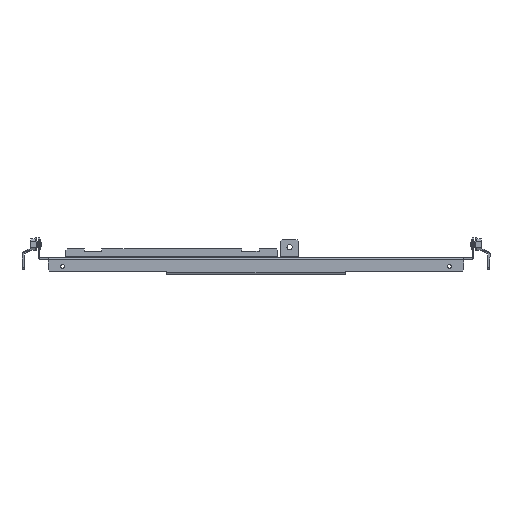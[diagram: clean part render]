
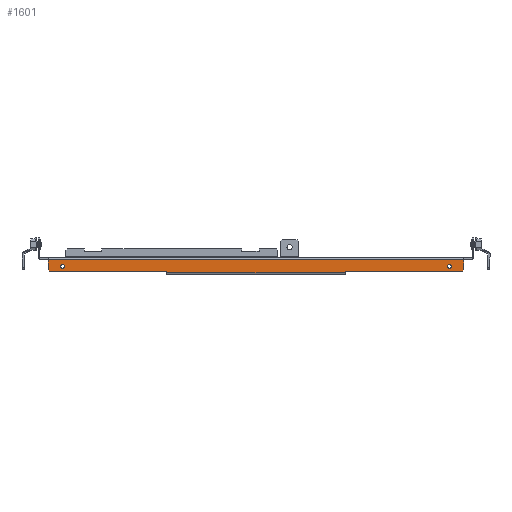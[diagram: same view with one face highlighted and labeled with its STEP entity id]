
A CAD part, front view. The second image highlights one B-rep face of the part: STEP entity #1601.
In plain terms, the highlighted planar face has unit normal (0, -1, 0).
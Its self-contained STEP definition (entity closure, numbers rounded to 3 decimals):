
#386=CARTESIAN_POINT(' ',(-221.5,-211.7,-7.8));
#387=VERTEX_POINT(' ',#386);
#401=CARTESIAN_POINT(' ',(-221.5,-211.7,-10.));
#406=DIRECTION(' ',(0.,-1.,0.));
#411=DIRECTION(' ',(0.,0.,1.));
#416=AXIS2_PLACEMENT_3D(' ',#401,#406,#411);
#421=CIRCLE('',#416,2.2);
#426=CARTESIAN_POINT(' ',(-221.5,-211.7,-12.2));
#427=VERTEX_POINT(' ',#426);
#431=EDGE_CURVE(' ',#387,#427,#421,.T.);
#1056=CARTESIAN_POINT(' ',(-221.5,-211.7,-10.));
#1061=DIRECTION(' ',(-0.,-1.,0.));
#1066=DIRECTION(' ',(0.,0.,-1.));
#1071=AXIS2_PLACEMENT_3D(' ',#1056,#1061,#1066);
#1076=CIRCLE('',#1071,2.2);
#1081=EDGE_CURVE(' ',#427,#387,#1076,.T.);
#1106=DIRECTION(' ',(0.,-1.,0.));
#1111=CARTESIAN_POINT(' ',(-238.,-211.7,-17.4));
#1116=DIRECTION(' ',(1.,0.,0.));
#1121=AXIS2_PLACEMENT_3D(' ',#1111,#1106,#1116);
#1126=PLANE('NONE',#1121);
#1131=CARTESIAN_POINT(' ',(102.,-211.7,-16.));
#1136=DIRECTION(' ',(1.,0.,0.));
#1141=VECTOR(' ',#1136,1.);
#1146=LINE('',#1131,#1141);
#1151=CARTESIAN_POINT(' ',(102.,-211.7,-16.));
#1152=VERTEX_POINT(' ',#1151);
#1156=CARTESIAN_POINT(' ',(236.,-211.7,-16.));
#1157=VERTEX_POINT(' ',#1156);
#1161=EDGE_CURVE(' ',#1152,#1157,#1146,.T.);
#1166=ORIENTED_EDGE(' ',*,*,#1161,.T.);
#1171=CARTESIAN_POINT(' ',(236.,-211.7,-16.));
#1176=DIRECTION(' ',(0.707,0.,0.707));
#1181=VECTOR(' ',#1176,1.);
#1186=LINE('',#1171,#1181);
#1191=CARTESIAN_POINT(' ',(238.,-211.7,-14.));
#1192=VERTEX_POINT(' ',#1191);
#1196=EDGE_CURVE(' ',#1157,#1192,#1186,.T.);
#1201=ORIENTED_EDGE(' ',*,*,#1196,.T.);
#1206=CARTESIAN_POINT(' ',(238.,-211.7,-14.));
#1211=DIRECTION(' ',(0.,0.,1.));
#1216=VECTOR(' ',#1211,1.);
#1221=LINE('',#1206,#1216);
#1226=CARTESIAN_POINT(' ',(238.,-211.7,-2.6));
#1227=VERTEX_POINT(' ',#1226);
#1231=EDGE_CURVE(' ',#1192,#1227,#1221,.T.);
#1236=ORIENTED_EDGE(' ',*,*,#1231,.T.);
#1241=CARTESIAN_POINT(' ',(-238.,-211.7,-2.6));
#1246=DIRECTION(' ',(1.,0.,0.));
#1251=VECTOR(' ',#1246,1.);
#1256=LINE('',#1241,#1251);
#1261=CARTESIAN_POINT(' ',(-238.,-211.7,-2.6));
#1262=VERTEX_POINT(' ',#1261);
#1266=EDGE_CURVE(' ',#1262,#1227,#1256,.T.);
#1271=ORIENTED_EDGE(' ',*,*,#1266,.F.);
#1276=CARTESIAN_POINT(' ',(-238.,-211.7,-2.6));
#1281=DIRECTION(' ',(0.,0.,-1.));
#1286=VECTOR(' ',#1281,1.);
#1291=LINE('',#1276,#1286);
#1296=CARTESIAN_POINT(' ',(-238.,-211.7,-14.));
#1297=VERTEX_POINT(' ',#1296);
#1301=EDGE_CURVE(' ',#1262,#1297,#1291,.T.);
#1306=ORIENTED_EDGE(' ',*,*,#1301,.T.);
#1311=CARTESIAN_POINT(' ',(-238.,-211.7,-14.));
#1316=DIRECTION(' ',(0.707,0.,-0.707));
#1321=VECTOR(' ',#1316,1.);
#1326=LINE('',#1311,#1321);
#1331=CARTESIAN_POINT(' ',(-236.,-211.7,-16.));
#1332=VERTEX_POINT(' ',#1331);
#1336=EDGE_CURVE(' ',#1297,#1332,#1326,.T.);
#1341=ORIENTED_EDGE(' ',*,*,#1336,.T.);
#1346=CARTESIAN_POINT(' ',(-236.,-211.7,-16.));
#1351=DIRECTION(' ',(1.,0.,0.));
#1356=VECTOR(' ',#1351,1.);
#1361=LINE('',#1346,#1356);
#1366=CARTESIAN_POINT(' ',(-102.,-211.7,-16.));
#1367=VERTEX_POINT(' ',#1366);
#1371=EDGE_CURVE(' ',#1332,#1367,#1361,.T.);
#1376=ORIENTED_EDGE(' ',*,*,#1371,.T.);
#1381=CARTESIAN_POINT(' ',(-102.,-211.7,-17.4));
#1386=DIRECTION(' ',(0.,0.,1.));
#1391=VECTOR(' ',#1386,1.);
#1396=LINE('',#1381,#1391);
#1401=CARTESIAN_POINT(' ',(-102.,-211.7,-17.4));
#1402=VERTEX_POINT(' ',#1401);
#1406=EDGE_CURVE(' ',#1402,#1367,#1396,.T.);
#1411=ORIENTED_EDGE(' ',*,*,#1406,.F.);
#1416=CARTESIAN_POINT(' ',(-102.,-211.7,-17.4));
#1421=DIRECTION(' ',(1.,0.,0.));
#1426=VECTOR(' ',#1421,1.);
#1431=LINE('',#1416,#1426);
#1436=CARTESIAN_POINT(' ',(102.,-211.7,-17.4));
#1437=VERTEX_POINT(' ',#1436);
#1441=EDGE_CURVE(' ',#1402,#1437,#1431,.T.);
#1446=ORIENTED_EDGE(' ',*,*,#1441,.T.);
#1451=CARTESIAN_POINT(' ',(102.,-211.7,-17.4));
#1456=DIRECTION(' ',(0.,0.,1.));
#1461=VECTOR(' ',#1456,1.);
#1466=LINE('',#1451,#1461);
#1471=EDGE_CURVE(' ',#1437,#1152,#1466,.T.);
#1476=ORIENTED_EDGE(' ',*,*,#1471,.T.);
#1481=EDGE_LOOP(' ',(#1166,#1201,#1236,#1271,#1306,#1341,#1376,#1411,#1446,#1476));
#1486=FACE_OUTER_BOUND(' ',#1481,.T.);
#1491=ORIENTED_EDGE(' ',*,*,#1081,.F.);
#1496=ORIENTED_EDGE(' ',*,*,#431,.F.);
#1501=EDGE_LOOP(' ',(#1491,#1496));
#1506=FACE_BOUND(' ',#1501,.T.);
#1511=CARTESIAN_POINT(' ',(221.5,-211.7,-10.));
#1516=DIRECTION(' ',(-0.,-1.,0.));
#1521=DIRECTION(' ',(0.,0.,-1.));
#1526=AXIS2_PLACEMENT_3D(' ',#1511,#1516,#1521);
#1531=CIRCLE('',#1526,2.2);
#1536=CARTESIAN_POINT(' ',(221.5,-211.7,-12.2));
#1537=VERTEX_POINT(' ',#1536);
#1541=CARTESIAN_POINT(' ',(221.5,-211.7,-7.8));
#1542=VERTEX_POINT(' ',#1541);
#1546=EDGE_CURVE(' ',#1537,#1542,#1531,.T.);
#1551=ORIENTED_EDGE(' ',*,*,#1546,.F.);
#1556=CARTESIAN_POINT(' ',(221.5,-211.7,-10.));
#1561=DIRECTION(' ',(0.,-1.,0.));
#1566=DIRECTION(' ',(0.,0.,1.));
#1571=AXIS2_PLACEMENT_3D(' ',#1556,#1561,#1566);
#1576=CIRCLE('',#1571,2.2);
#1581=EDGE_CURVE(' ',#1542,#1537,#1576,.T.);
#1586=ORIENTED_EDGE(' ',*,*,#1581,.F.);
#1591=EDGE_LOOP(' ',(#1551,#1586));
#1596=FACE_BOUND(' ',#1591,.T.);
#1601=ADVANCED_FACE('NONE',(#1486,#1506,#1596),#1126,.T.);
